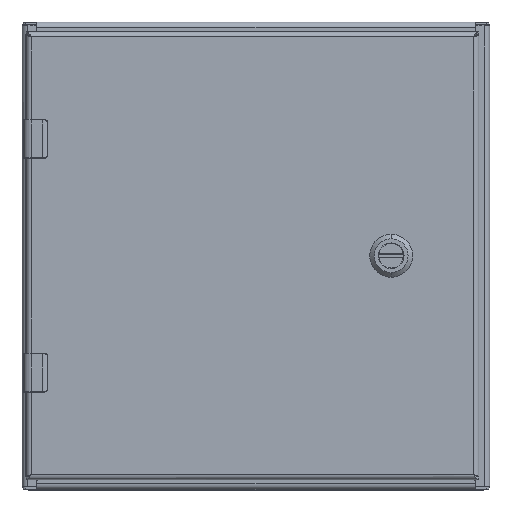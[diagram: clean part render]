
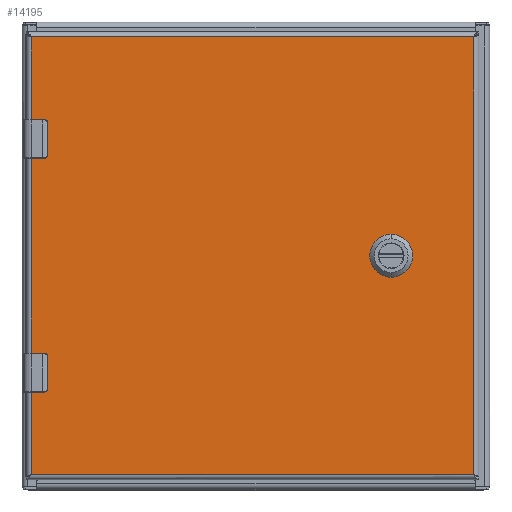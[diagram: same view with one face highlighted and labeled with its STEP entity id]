
A CAD part, top view. The second image highlights one B-rep face of the part: STEP entity #14195.
In plain terms, the highlighted planar face has unit normal (0, 0, 1).
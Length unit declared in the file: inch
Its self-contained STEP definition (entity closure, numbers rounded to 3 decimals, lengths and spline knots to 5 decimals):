
#11398=CARTESIAN_POINT('',(3.5625,0.,0.));
#11399=DIRECTION('',(0.,0.,1.));
#11400=DIRECTION('',(-0.448,0.894,0.));
#11401=AXIS2_PLACEMENT_3D('',#11398,#11399,#11400);
#11406=DIRECTION('',(0.,-1.,0.));
#11407=VECTOR('',#11406,0.39715);
#11408=CARTESIAN_POINT('',(3.1665,0.19858,0.));
#11409=LINE('',#11408,#11407);
#11413=CARTESIAN_POINT('',(3.5625,0.,0.));
#11414=DIRECTION('',(0.,0.,1.));
#11415=DIRECTION('',(-0.894,-0.448,0.));
#11416=AXIS2_PLACEMENT_3D('',#11413,#11414,#11415);
#11421=DIRECTION('',(1.,0.,0.));
#11422=VECTOR('',#11421,0.39715);
#11423=CARTESIAN_POINT('',(3.36392,-0.396,0.));
#11424=LINE('',#11423,#11422);
#11428=CARTESIAN_POINT('',(3.5625,0.,0.));
#11429=DIRECTION('',(0.,0.,1.));
#11430=DIRECTION('',(0.448,-0.894,0.));
#11431=AXIS2_PLACEMENT_3D('',#11428,#11429,#11430);
#11436=DIRECTION('',(0.,1.,0.));
#11437=VECTOR('',#11436,0.39715);
#11438=CARTESIAN_POINT('',(3.9585,-0.19858,0.));
#11439=LINE('',#11438,#11437);
#11443=CARTESIAN_POINT('',(3.5625,0.,0.));
#11444=DIRECTION('',(0.,0.,1.));
#11445=DIRECTION('',(0.894,0.448,0.));
#11446=AXIS2_PLACEMENT_3D('',#11443,#11444,#11445);
#11451=DIRECTION('',(-1.,0.,0.));
#11452=VECTOR('',#11451,0.39715);
#11453=CARTESIAN_POINT('',(3.76108,0.396,0.));
#11454=LINE('',#11453,#11452);
#11458=DIRECTION('',(1.,0.,0.));
#11459=VECTOR('',#11458,0.34892);
#11460=CARTESIAN_POINT('',(-5.6775,-3.345,0.));
#11461=LINE('',#11460,#11459);
#11465=DIRECTION('',(0.,1.,0.));
#11466=VECTOR('',#11465,0.63);
#11467=CARTESIAN_POINT('',(-5.29858,-3.315,0.));
#11468=LINE('',#11467,#11466);
#11472=DIRECTION('',(1.,0.,0.));
#11473=VECTOR('',#11472,0.34892);
#11474=CARTESIAN_POINT('',(-5.6775,-2.655,0.));
#11475=LINE('',#11474,#11473);
#11479=DIRECTION('',(1.,0.,0.));
#11480=VECTOR('',#11479,0.34892);
#11481=CARTESIAN_POINT('',(-5.6775,2.655,0.));
#11482=LINE('',#11481,#11480);
#11486=DIRECTION('',(0.,1.,0.));
#11487=VECTOR('',#11486,0.63);
#11488=CARTESIAN_POINT('',(-5.29858,2.685,0.));
#11489=LINE('',#11488,#11487);
#11493=DIRECTION('',(1.,0.,0.));
#11494=VECTOR('',#11493,0.34892);
#11495=CARTESIAN_POINT('',(-5.6775,3.345,0.));
#11496=LINE('',#11495,#11494);
#11959=CARTESIAN_POINT('',(-5.32858,-2.685,0.));
#11960=DIRECTION('',(0.,0.,-1.));
#11961=DIRECTION('',(0.,1.,0.));
#11962=AXIS2_PLACEMENT_3D('',#11959,#11960,#11961);
#11989=CARTESIAN_POINT('',(-5.32858,-3.315,0.));
#11990=DIRECTION('',(0.,0.,-1.));
#11991=DIRECTION('',(1.,0.,0.));
#11992=AXIS2_PLACEMENT_3D('',#11989,#11990,#11991);
#12042=DIRECTION('',(0.,1.,0.));
#12043=VECTOR('',#12042,5.31);
#12044=CARTESIAN_POINT('',(-5.6775,-2.655,0.));
#12045=LINE('',#12044,#12043);
#12072=DIRECTION('',(0.,1.,0.));
#12073=VECTOR('',#12072,2.27);
#12074=CARTESIAN_POINT('',(-5.6775,3.345,0.));
#12075=LINE('',#12074,#12073);
#12132=DIRECTION('',(0.,1.,0.));
#12133=VECTOR('',#12132,2.27);
#12134=CARTESIAN_POINT('',(-5.6775,-5.615,0.));
#12135=LINE('',#12134,#12133);
#12795=CARTESIAN_POINT('',(-5.32858,2.685,0.));
#12796=DIRECTION('',(0.,0.,-1.));
#12797=DIRECTION('',(1.,0.,0.));
#12798=AXIS2_PLACEMENT_3D('',#12795,#12796,#12797);
#12825=CARTESIAN_POINT('',(-5.32858,3.315,0.));
#12826=DIRECTION('',(0.,0.,-1.));
#12827=DIRECTION('',(0.,1.,0.));
#12828=AXIS2_PLACEMENT_3D('',#12825,#12826,#12827);
#13494=DIRECTION('',(-1.,0.,0.));
#13495=VECTOR('',#13494,11.355);
#13496=CARTESIAN_POINT('',(5.6775,-5.615,0.));
#13497=LINE('',#13496,#13495);
#13552=DIRECTION('',(0.,-1.,0.));
#13553=VECTOR('',#13552,11.23);
#13554=CARTESIAN_POINT('',(5.6775,5.615,0.));
#13555=LINE('',#13554,#13553);
#13698=DIRECTION('',(1.,0.,0.));
#13699=VECTOR('',#13698,11.355);
#13700=CARTESIAN_POINT('',(-5.6775,5.615,0.));
#13701=LINE('',#13700,#13699);
#13770=CARTESIAN_POINT('',(5.6775,5.615,0.));
#13771=CARTESIAN_POINT('',(5.6775,-5.615,0.));
#13772=VERTEX_POINT('',#13770);
#13773=VERTEX_POINT('',#13771);
#13858=CARTESIAN_POINT('',(3.36392,0.396,0.));
#13859=CARTESIAN_POINT('',(3.1665,0.19858,0.));
#13860=VERTEX_POINT('',#13858);
#13861=VERTEX_POINT('',#13859);
#13862=CARTESIAN_POINT('',(3.1665,-0.19858,0.));
#13863=VERTEX_POINT('',#13862);
#13864=CARTESIAN_POINT('',(3.36392,-0.396,0.));
#13865=VERTEX_POINT('',#13864);
#13866=CARTESIAN_POINT('',(3.76108,-0.396,0.));
#13867=VERTEX_POINT('',#13866);
#13868=CARTESIAN_POINT('',(3.9585,-0.19858,0.));
#13869=VERTEX_POINT('',#13868);
#13870=CARTESIAN_POINT('',(3.9585,0.19858,0.));
#13871=VERTEX_POINT('',#13870);
#13872=CARTESIAN_POINT('',(3.76108,0.396,0.));
#13873=VERTEX_POINT('',#13872);
#13963=CARTESIAN_POINT('',(-5.6775,5.615,0.));
#13965=VERTEX_POINT('',#13963);
#13970=CARTESIAN_POINT('',(-5.6775,-5.615,0.));
#13972=VERTEX_POINT('',#13970);
#14042=CARTESIAN_POINT('',(-5.6775,2.655,0.));
#14044=VERTEX_POINT('',#14042);
#14046=CARTESIAN_POINT('',(-5.6775,3.345,0.));
#14048=VERTEX_POINT('',#14046);
#14058=CARTESIAN_POINT('',(-5.6775,-3.345,0.));
#14060=VERTEX_POINT('',#14058);
#14062=CARTESIAN_POINT('',(-5.6775,-2.655,0.));
#14064=VERTEX_POINT('',#14062);
#14074=CARTESIAN_POINT('',(-5.32858,3.345,0.));
#14076=VERTEX_POINT('',#14074);
#14078=CARTESIAN_POINT('',(-5.29858,3.315,0.));
#14080=VERTEX_POINT('',#14078);
#14082=CARTESIAN_POINT('',(-5.29858,2.685,0.));
#14084=VERTEX_POINT('',#14082);
#14086=CARTESIAN_POINT('',(-5.32858,2.655,0.));
#14088=VERTEX_POINT('',#14086);
#14106=CARTESIAN_POINT('',(-5.32858,-2.655,0.));
#14108=VERTEX_POINT('',#14106);
#14110=CARTESIAN_POINT('',(-5.29858,-2.685,0.));
#14112=VERTEX_POINT('',#14110);
#14114=CARTESIAN_POINT('',(-5.29858,-3.315,0.));
#14116=VERTEX_POINT('',#14114);
#14118=CARTESIAN_POINT('',(-5.32858,-3.345,0.));
#14120=VERTEX_POINT('',#14118);
#14138=CARTESIAN_POINT('',(0.,0.,0.));
#14139=DIRECTION('',(0.,0.,-1.));
#14140=DIRECTION('',(1.,0.,0.));
#14141=AXIS2_PLACEMENT_3D('',#14138,#14139,#14140);
#14142=PLANE('',#14141);
#14144=ORIENTED_EDGE('',*,*,#14143,.T.);
#14146=ORIENTED_EDGE('',*,*,#14145,.T.);
#14148=ORIENTED_EDGE('',*,*,#14147,.T.);
#14150=ORIENTED_EDGE('',*,*,#14149,.F.);
#14152=ORIENTED_EDGE('',*,*,#14151,.T.);
#14154=ORIENTED_EDGE('',*,*,#14153,.F.);
#14156=ORIENTED_EDGE('',*,*,#14155,.F.);
#14158=ORIENTED_EDGE('',*,*,#14157,.T.);
#14160=ORIENTED_EDGE('',*,*,#14159,.T.);
#14162=ORIENTED_EDGE('',*,*,#14161,.F.);
#14164=ORIENTED_EDGE('',*,*,#14163,.T.);
#14166=ORIENTED_EDGE('',*,*,#14165,.F.);
#14168=ORIENTED_EDGE('',*,*,#14167,.F.);
#14170=ORIENTED_EDGE('',*,*,#14169,.T.);
#14172=ORIENTED_EDGE('',*,*,#14171,.T.);
#14174=ORIENTED_EDGE('',*,*,#14173,.T.);
#14175=EDGE_LOOP('',(#14144,#14146,#14148,#14150,#14152,#14154,#14156,#14158,
#14160,#14162,#14164,#14166,#14168,#14170,#14172,#14174));
#14176=FACE_OUTER_BOUND('',#14175,.F.);
#14178=ORIENTED_EDGE('',*,*,#14177,.T.);
#14180=ORIENTED_EDGE('',*,*,#14179,.T.);
#14182=ORIENTED_EDGE('',*,*,#14181,.T.);
#14184=ORIENTED_EDGE('',*,*,#14183,.T.);
#14186=ORIENTED_EDGE('',*,*,#14185,.T.);
#14188=ORIENTED_EDGE('',*,*,#14187,.T.);
#14190=ORIENTED_EDGE('',*,*,#14189,.T.);
#14192=ORIENTED_EDGE('',*,*,#14191,.T.);
#14193=EDGE_LOOP('',(#14178,#14180,#14182,#14184,#14186,#14188,#14190,#14192));
#14194=FACE_BOUND('',#14193,.F.);
#11402=CIRCLE('',#11401,0.443);
#11417=CIRCLE('',#11416,0.443);
#11432=CIRCLE('',#11431,0.443);
#11447=CIRCLE('',#11446,0.443);
#11963=CIRCLE('',#11962,0.03);
#11993=CIRCLE('',#11992,0.03);
#12799=CIRCLE('',#12798,0.03);
#12829=CIRCLE('',#12828,0.03);
#14143=EDGE_CURVE('',#13773,#13972,#13497,.T.);
#14145=EDGE_CURVE('',#13972,#14060,#12135,.T.);
#14147=EDGE_CURVE('',#14060,#14120,#11461,.T.);
#14149=EDGE_CURVE('',#14116,#14120,#11993,.T.);
#14151=EDGE_CURVE('',#14116,#14112,#11468,.T.);
#14153=EDGE_CURVE('',#14108,#14112,#11963,.T.);
#14155=EDGE_CURVE('',#14064,#14108,#11475,.T.);
#14157=EDGE_CURVE('',#14064,#14044,#12045,.T.);
#14159=EDGE_CURVE('',#14044,#14088,#11482,.T.);
#14161=EDGE_CURVE('',#14084,#14088,#12799,.T.);
#14163=EDGE_CURVE('',#14084,#14080,#11489,.T.);
#14165=EDGE_CURVE('',#14076,#14080,#12829,.T.);
#14167=EDGE_CURVE('',#14048,#14076,#11496,.T.);
#14169=EDGE_CURVE('',#14048,#13965,#12075,.T.);
#14171=EDGE_CURVE('',#13965,#13772,#13701,.T.);
#14173=EDGE_CURVE('',#13772,#13773,#13555,.T.);
#14177=EDGE_CURVE('',#13860,#13861,#11402,.T.);
#14179=EDGE_CURVE('',#13861,#13863,#11409,.T.);
#14181=EDGE_CURVE('',#13863,#13865,#11417,.T.);
#14183=EDGE_CURVE('',#13865,#13867,#11424,.T.);
#14185=EDGE_CURVE('',#13867,#13869,#11432,.T.);
#14187=EDGE_CURVE('',#13869,#13871,#11439,.T.);
#14189=EDGE_CURVE('',#13871,#13873,#11447,.T.);
#14191=EDGE_CURVE('',#13873,#13860,#11454,.T.);
#14195=ADVANCED_FACE('',(#14176,#14194),#14142,.F.);
